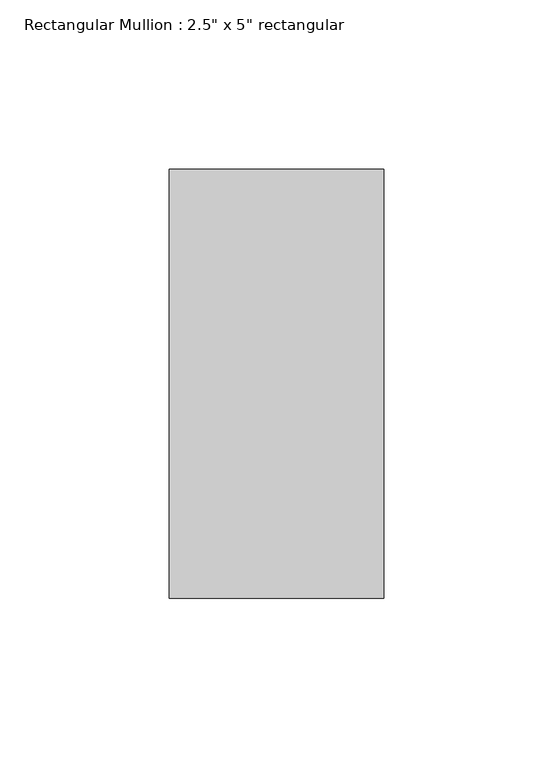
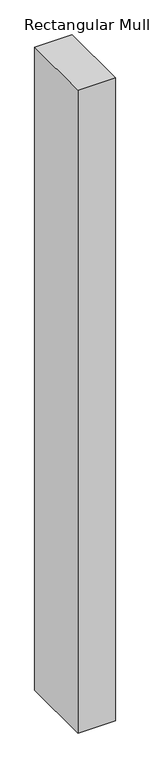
"""IFC4 building model written with IfcOpenShell, lengths in millimetres: member geometry."""

from ifc_helpers import new_model, si_unit, frame, origin, place, context, project, spatial, polyline, outline, extrude, source, transform, mapped, element, save


def member_884c5eab(model_context):
    return source(origin(), model_context, "Body", "SweptSolid", [
        extrude(outline(polyline([(0.0, 76.2), (0.0, -50.8), (-63.5, -50.8), (-63.5, 76.2), (0.0, 76.2)])), frame((0.0, 0.0, -1153.0541667), z_axis=(0.0, 0.0, 1.0), x_axis=(1.0, 0.0, 0.0)), (0.0, 0.0, 1.0), 1153.0541667),
    ])


if __name__ == "__main__":
    model = new_model("IFC4")
    model_context = context("Model", 3, world=origin())
    ifc_project = project(units=[si_unit("LENGTHUNIT", "METRE", prefix="MILLI")], contexts=[model_context])
    site = spatial("IfcSite", under=ifc_project)
    building = spatial("IfcBuilding", under=site)
    placement = place(None, origin())
    member_shape = member_884c5eab(model_context)
    element("IfcMember", 1, ObjectType="Rectangular Mullion : 2.5\" x 5\" rectangular", at=placement, inside=building, context=model_context, shape_type="MappedRepresentation", body=[
        mapped(member_shape, transform((0.0, 0.0, 0.0), x_axis=(1.0, 0.0, 0.0), y_axis=(0.0, 1.0, 0.0), z_axis=(0.0, 0.0, 1.0))),
    ])
    save(model, "model.ifc")
